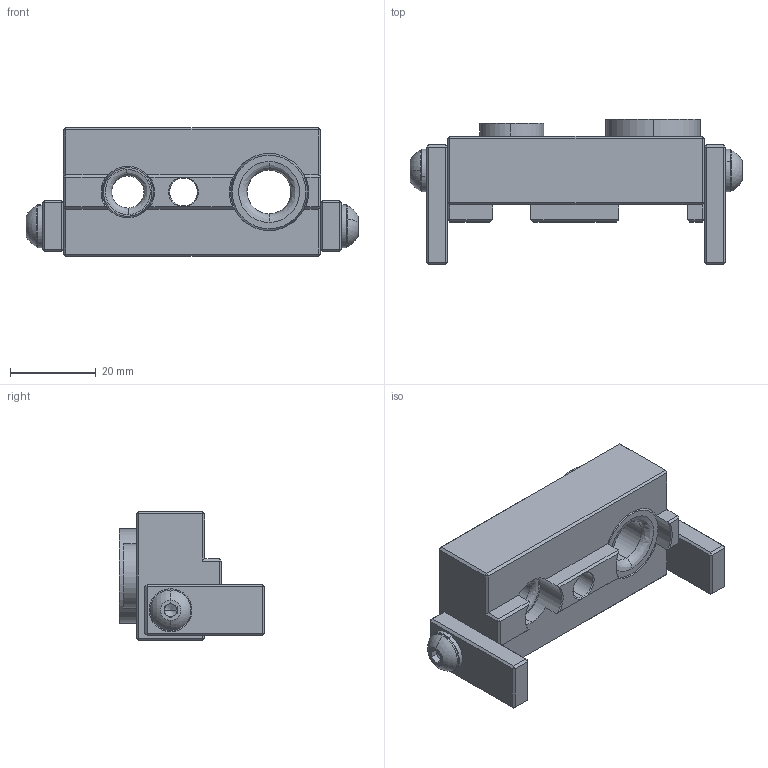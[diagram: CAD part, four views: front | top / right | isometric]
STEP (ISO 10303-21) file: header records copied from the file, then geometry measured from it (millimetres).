
FILE_DESCRIPTION (( 'STEP AP203' ), '1' );
FILE_NAME ('13335_BOHVER8.3060.STEP', '2018-10-04T11:22:07', ( '' ), ( '' ), 'SwSTEP 2.0', 'SolidWorks 2017', '' );
FILE_SCHEMA (( 'CONFIG_CONTROL_DESIGN' ));
Length unit declared in the file: millimetre
Products named in the file (7): 13335_BOHVER8.3060; 13335-01-0000-00; 13335-01-0000-01; 13335-01-0000-02; socket button head screw_iso_ISO 7380 - M5 x 10 - 10N; plain washer normal grade a_iso_Washer ISO 7089 - 5; 13335-01-0000-03
Assembly tree (9 placements, depth 2):
  13335_BOHVER8.3060
    13335-01-0000-00
    13335-01-0000-01
    13335-01-0000-02
    socket button head screw_iso_ISO 7380 - M5 x 10 - 10N  x2
    plain washer normal grade a_iso_Washer ISO 7089 - 5  x2
    13335-01-0000-03  x2
Bounding box: 77.5 x 34 x 30 mm (x, y, z)
Volume: 31911.9 mm3; surface area: 14795.5 mm2
Topology: 9 solids, 9 shells, 257 faces, 557 edges, 316 vertices
Faces by surface type: plane 147, cylinder 46, cone 44, bspline 12, torus 4, sphere 4
Entity records: 6512 total; most frequent: CARTESIAN_POINT 1496, DIRECTION 919, ORIENTED_EDGE 838, EDGE_CURVE 419, AXIS2_PLACEMENT_3D 336, VECTOR 247, LINE 247, VERTEX_POINT 241
